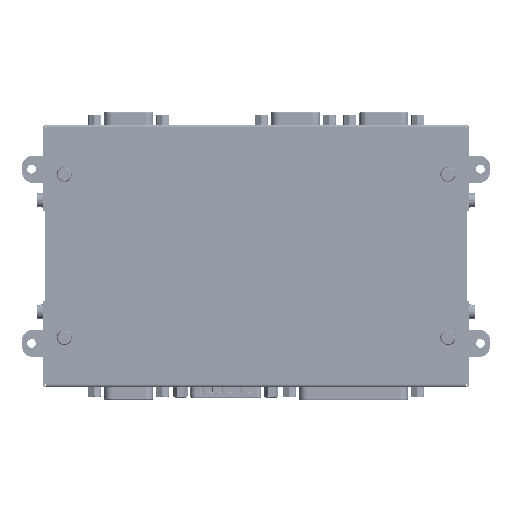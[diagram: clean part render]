
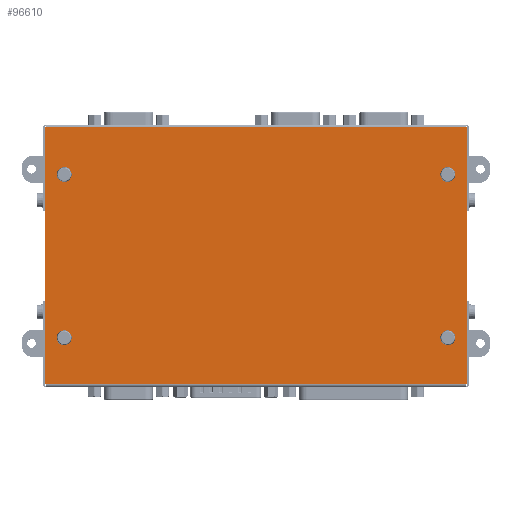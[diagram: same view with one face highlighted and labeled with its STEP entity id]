
A CAD part, top view. The second image highlights one B-rep face of the part: STEP entity #96610.
In plain terms, the highlighted planar face has unit normal (0, 0, 1).
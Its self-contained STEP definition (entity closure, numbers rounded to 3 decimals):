
#928=FACE_BOUND('',#15843,.T.);
#929=FACE_BOUND('',#15844,.T.);
#930=FACE_BOUND('',#15845,.T.);
#931=FACE_BOUND('',#15846,.T.);
#2415=PLANE('',#108288);
#11338=FACE_OUTER_BOUND('',#15842,.T.);
#15842=EDGE_LOOP('',(#84343,#84344,#84345,#84346,#84347,#84348,#84349,#84350));
#15843=EDGE_LOOP('',(#84351));
#15844=EDGE_LOOP('',(#84352));
#15845=EDGE_LOOP('',(#84353));
#15846=EDGE_LOOP('',(#84354));
#25500=LINE('',#172050,#35752);
#25506=LINE('',#172061,#35758);
#25513=LINE('',#172077,#35765);
#25516=LINE('',#172082,#35768);
#25519=LINE('',#172087,#35771);
#25520=LINE('',#172090,#35772);
#25522=LINE('',#172094,#35774);
#25531=LINE('',#172133,#35783);
#35752=VECTOR('',#130770,10.);
#35758=VECTOR('',#130778,10.);
#35765=VECTOR('',#130789,10.);
#35768=VECTOR('',#130794,10.);
#35771=VECTOR('',#130799,10.);
#35772=VECTOR('',#130802,10.);
#35774=VECTOR('',#130808,10.);
#35783=VECTOR('',#130877,10.);
#41247=CIRCLE('',#108182,1.6);
#41249=CIRCLE('',#108185,1.6);
#41251=CIRCLE('',#108188,1.6);
#41253=CIRCLE('',#108191,1.6);
#53420=VERTEX_POINT('',#171883);
#53422=VERTEX_POINT('',#171889);
#53424=VERTEX_POINT('',#171895);
#53426=VERTEX_POINT('',#171901);
#53464=VERTEX_POINT('',#172048);
#53465=VERTEX_POINT('',#172049);
#53469=VERTEX_POINT('',#172059);
#53475=VERTEX_POINT('',#172075);
#53476=VERTEX_POINT('',#172076);
#53477=VERTEX_POINT('',#172081);
#53478=VERTEX_POINT('',#172085);
#53479=VERTEX_POINT('',#172089);
#67540=EDGE_CURVE('',#53420,#53420,#41247,.T.);
#67543=EDGE_CURVE('',#53422,#53422,#41249,.T.);
#67546=EDGE_CURVE('',#53424,#53424,#41251,.T.);
#67549=EDGE_CURVE('',#53426,#53426,#41253,.T.);
#67624=EDGE_CURVE('',#53464,#53465,#25500,.T.);
#67630=EDGE_CURVE('',#53465,#53469,#25506,.T.);
#67637=EDGE_CURVE('',#53475,#53476,#25513,.T.);
#67640=EDGE_CURVE('',#53477,#53475,#25516,.T.);
#67643=EDGE_CURVE('',#53476,#53478,#25519,.T.);
#67644=EDGE_CURVE('',#53479,#53464,#25520,.T.);
#67646=EDGE_CURVE('',#53469,#53477,#25522,.T.);
#67659=EDGE_CURVE('',#53478,#53479,#25531,.T.);
#84343=ORIENTED_EDGE('',*,*,#67624,.T.);
#84344=ORIENTED_EDGE('',*,*,#67630,.T.);
#84345=ORIENTED_EDGE('',*,*,#67646,.T.);
#84346=ORIENTED_EDGE('',*,*,#67640,.T.);
#84347=ORIENTED_EDGE('',*,*,#67637,.T.);
#84348=ORIENTED_EDGE('',*,*,#67643,.T.);
#84349=ORIENTED_EDGE('',*,*,#67659,.T.);
#84350=ORIENTED_EDGE('',*,*,#67644,.T.);
#84351=ORIENTED_EDGE('',*,*,#67540,.T.);
#84352=ORIENTED_EDGE('',*,*,#67543,.T.);
#84353=ORIENTED_EDGE('',*,*,#67546,.T.);
#84354=ORIENTED_EDGE('',*,*,#67549,.T.);
#96610=ADVANCED_FACE('',(#11338,#928,#929,#930,#931),#2415,.T.);
#108182=AXIS2_PLACEMENT_3D('',#171884,#130588,#130589);
#108185=AXIS2_PLACEMENT_3D('',#171890,#130595,#130596);
#108188=AXIS2_PLACEMENT_3D('',#171896,#130602,#130603);
#108191=AXIS2_PLACEMENT_3D('',#171902,#130609,#130610);
#108288=AXIS2_PLACEMENT_3D('',#172141,#130892,#130893);
#130588=DIRECTION('center_axis',(0.,0.,
-1.));
#130589=DIRECTION('ref_axis',(-1.,0.,0.));
#130595=DIRECTION('center_axis',(0.,0.,
-1.));
#130596=DIRECTION('ref_axis',(-1.,0.,0.));
#130602=DIRECTION('center_axis',(0.,0.,
-1.));
#130603=DIRECTION('ref_axis',(-1.,0.,0.));
#130609=DIRECTION('center_axis',(0.,0.,
-1.));
#130610=DIRECTION('ref_axis',(-1.,0.,0.));
#130770=DIRECTION('',(0.,1.,0.));
#130778=DIRECTION('',(-1.,0.,0.));
#130789=DIRECTION('',(0.,-1.,0.));
#130794=DIRECTION('',(-1.,0.,0.));
#130799=DIRECTION('',(1.,0.,0.));
#130802=DIRECTION('',(1.,0.,0.));
#130808=DIRECTION('',(-1.,0.,0.));
#130877=DIRECTION('',(1.,0.,0.));
#130892=DIRECTION('center_axis',(0.,0.,
1.));
#130893=DIRECTION('ref_axis',(1.,0.,0.));
#171883=CARTESIAN_POINT('',(156.7,91.9,21.));
#171884=CARTESIAN_POINT('Origin',(155.1,91.9,21.));
#171889=CARTESIAN_POINT('',(15.7,91.9,21.));
#171890=CARTESIAN_POINT('Origin',(14.1,91.9,21.));
#171895=CARTESIAN_POINT('',(156.7,31.9,21.));
#171896=CARTESIAN_POINT('Origin',(155.1,31.9,21.));
#171901=CARTESIAN_POINT('',(15.7,31.9,21.));
#171902=CARTESIAN_POINT('Origin',(14.1,31.9,21.));
#172048=CARTESIAN_POINT('',(162.2,14.73,21.));
#172049=CARTESIAN_POINT('',(162.2,109.23,21.));
#172050=CARTESIAN_POINT('',(162.2,73.447,21.));
#172059=CARTESIAN_POINT('',(161.6,109.23,21.));
#172061=CARTESIAN_POINT('',(160.6,109.23,21.));
#172075=CARTESIAN_POINT('',(7.,109.23,21.));
#172076=CARTESIAN_POINT('',(7.,14.73,21.));
#172077=CARTESIAN_POINT('',(7.,26.197,21.));
#172081=CARTESIAN_POINT('',(7.6,109.23,21.));
#172082=CARTESIAN_POINT('',(9.1,109.23,21.));
#172085=CARTESIAN_POINT('',(7.6,14.73,21.));
#172087=CARTESIAN_POINT('',(8.6,14.73,21.));
#172089=CARTESIAN_POINT('',(161.6,14.73,21.));
#172090=CARTESIAN_POINT('',(160.1,14.73,21.));
#172094=CARTESIAN_POINT('',(84.6,109.23,21.));
#172133=CARTESIAN_POINT('',(84.6,14.73,21.));
#172141=CARTESIAN_POINT('Origin',(84.6,37.665,21.));
